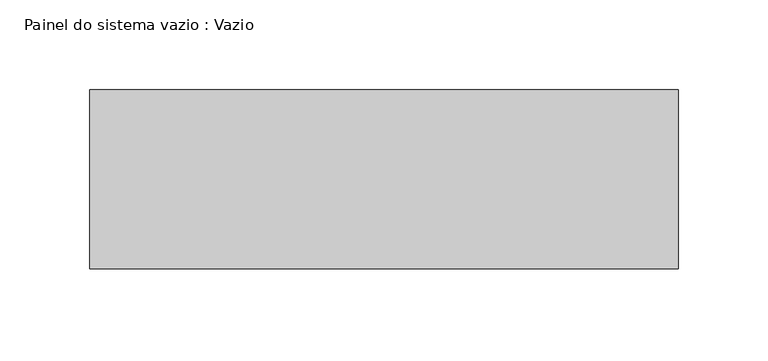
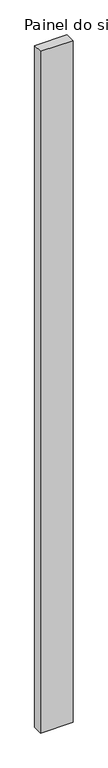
"""IFC4 building model written with IfcOpenShell, lengths in millimetres: plate geometry, Painel do sistema vazio : Vazio."""

import ifcopenshell
import ifcopenshell.guid

model = None  # the IFC model being written
_history = None  # IfcOwnerHistory: only IFC2X3 demands one
_inside = {}  # id of a spatial element -> (the spatial element, [elements in it])
_under = {}  # id of a project, library or spatial element -> (it, [spatial elements below it])
_declared = {}  # id of a project -> (the project, [libraries it declares])
_typed = {}  # id of a type object -> (the type object, [elements of that type])
_made_of = {}  # id of a material, layer set ... -> (it, [elements and type objects made of it])


def new_model(schema):
    """Start an empty IFC model of exactly this schema.

    Asked for "IFC4X3", IfcOpenShell would pick the latest addendum, in which some entities
    have other attributes; the version numbers below select the first issue.
    IFC2X3 requires an IfcOwnerHistory on every rooted entity: one is made here for all.
    """
    global model, _history
    if schema == "IFC4X3":
        model = ifcopenshell.file(schema_version=(4, 3, 0, 0))
    else:
        model = ifcopenshell.file(schema=schema)
    _inside.clear()
    _under.clear()
    _declared.clear()
    _typed.clear()
    _made_of.clear()
    _history = None
    if model.schema == "IFC2X3":
        org = make("IfcOrganization", Name="unknown")
        user = make(
            "IfcPersonAndOrganization",
            ThePerson=make("IfcPerson", FamilyName="unknown"),
            TheOrganization=org,
        )
        app = make(
            "IfcApplication",
            ApplicationDeveloper=org,
            Version="unknown",
            ApplicationFullName="unknown",
            ApplicationIdentifier="unknown",
        )
        _history = make(
            "IfcOwnerHistory",
            OwningUser=user,
            OwningApplication=app,
            ChangeAction="ADDED",
            CreationDate=0,
        )
    return model


def make(cls, **values):
    """One entity of the class cls with the attributes given. An attribute that is None is left unset."""
    return model.create_entity(
        cls, **{name: value for name, value in values.items() if value is not None}
    )


def rooted(cls, **values):
    """An entity with a GlobalId (a new one), such as an element, a storey or a relation."""
    return make(cls, GlobalId=ifcopenshell.guid.new(), OwnerHistory=_history, **values)


def si_unit(unit_type, name, prefix=None):
    """IfcSIUnit, for example si_unit("LENGTHUNIT", "METRE", prefix="MILLI")."""
    return make("IfcSIUnit", UnitType=unit_type, Prefix=prefix, Name=name)


def assignment(units):
    """IfcUnitAssignment: the units of a project."""
    return None if units is None else make("IfcUnitAssignment", Units=units)


def point(xyz):
    """IfcCartesianPoint."""
    return None if xyz is None else make("IfcCartesianPoint", Coordinates=xyz)


def direction(xyz):
    """IfcDirection."""
    return None if xyz is None else make("IfcDirection", DirectionRatios=xyz)


def frame(location, z_axis=None, x_axis=None):
    """IfcAxis2Placement3D, a coordinate frame: its origin and axes. An axis left out is left unset."""
    return make(
        "IfcAxis2Placement3D",
        Location=point(location),
        Axis=direction(z_axis),
        RefDirection=direction(x_axis),
    )


def origin():
    """The frame at (0, 0, 0) with its axes left unset."""
    return frame((0.0, 0.0, 0.0))


def origin_with_axes():
    """The frame at (0, 0, 0) with the z axis (0, 0, 1) and the x axis (1, 0, 0) written out."""
    return frame((0.0, 0.0, 0.0), z_axis=(0.0, 0.0, 1.0), x_axis=(1.0, 0.0, 0.0))


def place(relative_to, where):
    """IfcLocalPlacement: puts the frame where relative to a parent placement (None: the world)."""
    return make(
        "IfcLocalPlacement", PlacementRelTo=relative_to, RelativePlacement=where
    )


def context(
    kind, dimensions, precision=None, world=None, true_north=None, identifier=None
):
    """IfcGeometricRepresentationContext, for example the 3D "Model" context."""
    return make(
        "IfcGeometricRepresentationContext",
        ContextIdentifier=identifier,
        ContextType=kind,
        CoordinateSpaceDimension=dimensions,
        Precision=precision,
        WorldCoordinateSystem=world,
        TrueNorth=true_north,
    )


def project(units=None, contexts=None):
    """IfcProject with its units and contexts."""
    return rooted(
        "IfcProject",
        Name="project",
        RepresentationContexts=contexts,
        UnitsInContext=assignment(units),
    )


def spatial(cls, under=None, at=None, **own):
    """A site, building, storey or space (cls), placed at a placement, below another one or the project."""
    s = rooted(cls, ObjectPlacement=at, **own)
    if under is not None:
        _under.setdefault(under.id(), (under, []))[1].append(s)
    return s


def polyline(points):
    """IfcPolyline through the points."""
    return make("IfcPolyline", Points=[point(p) for p in points])


def outline(outer, holes=None, kind="AREA"):
    """IfcArbitraryClosedProfileDef: a profile drawn as a closed curve; with holes, ...WithVoids."""
    if holes is None:
        return make("IfcArbitraryClosedProfileDef", ProfileType=kind, OuterCurve=outer)
    return make(
        "IfcArbitraryProfileDefWithVoids",
        ProfileType=kind,
        OuterCurve=outer,
        InnerCurves=holes,
    )


def extrude(swept, where, along, depth):
    """IfcExtrudedAreaSolid: the profile swept, set in the frame where, extruded along a direction by depth."""
    return make(
        "IfcExtrudedAreaSolid",
        SweptArea=swept,
        Position=where,
        ExtrudedDirection=direction(along),
        Depth=depth,
    )


def shape(context_of_items, identifier, shape_type, items):
    """IfcShapeRepresentation: the items that make up one representation, for example the "Body"."""
    return make(
        "IfcShapeRepresentation",
        ContextOfItems=context_of_items,
        RepresentationIdentifier=identifier,
        RepresentationType=shape_type,
        Items=items,
    )


def source(mapping_origin, context_of_items, identifier, shape_type, items):
    """IfcRepresentationMap: a shape defined once, which mapped items show again and again."""
    return make(
        "IfcRepresentationMap",
        MappingOrigin=mapping_origin,
        MappedRepresentation=shape(context_of_items, identifier, shape_type, items),
    )


def transform(
    local_origin,
    x_axis=None,
    y_axis=None,
    z_axis=None,
    scale=None,
    scale2=None,
    scale3=None,
    uniform=True,
):
    """IfcCartesianTransformationOperator3D, or its non-uniform kind. x_axis, y_axis, z_axis: its Axis1, 2, 3."""
    if uniform:
        return make(
            "IfcCartesianTransformationOperator3D",
            Axis1=direction(x_axis),
            Axis2=direction(y_axis),
            LocalOrigin=point(local_origin),
            Scale=scale,
            Axis3=direction(z_axis),
        )
    return make(
        "IfcCartesianTransformationOperator3DnonUniform",
        Axis1=direction(x_axis),
        Axis2=direction(y_axis),
        LocalOrigin=point(local_origin),
        Scale=scale,
        Axis3=direction(z_axis),
        Scale2=scale2,
        Scale3=scale3,
    )


def mapped(mapping_source, mapping_target):
    """IfcMappedItem: shows the shape of a source again, moved by a transform."""
    return make(
        "IfcMappedItem", MappingSource=mapping_source, MappingTarget=mapping_target
    )


def made_of(thing, what):
    """Note that an element or type object is made of a material, layer set ...; save() writes the relation."""
    if what is not None:
        _made_of.setdefault(what.id(), (what, []))[1].append(thing)
    return thing


def element(
    cls,
    number,
    at=None,
    inside=None,
    cuts=None,
    type_object=None,
    material=None,
    context=None,
    identifier="Body",
    shape_type=None,
    held_by="IfcProductDefinitionShape",
    body=None,
    shapes=None,
    **own,
):
    """One element of the class cls, such as IfcWall. Its Tag is "e" and its number.

    at: its placement. inside: the storey or other place that contains it. cuts: it is an
    opening in that element (IfcRelVoidsElement). A single representation is given by context,
    identifier, shape_type and body (its items); several are given by shapes. held_by: the class
    of the entity that holds the representations. save() writes the other relations.
    """
    e = rooted(cls, Tag="e%d" % number, ObjectPlacement=at, **own)
    if body is not None:
        shapes = [shape(context, identifier, shape_type, body)]
    if shapes is not None:
        e.Representation = make(held_by, Representations=shapes)
    if inside is not None:
        _inside.setdefault(inside.id(), (inside, []))[1].append(e)
    if cuts is not None:
        rooted(
            "IfcRelVoidsElement", RelatingBuildingElement=cuts, RelatedOpeningElement=e
        )
    if type_object is not None:
        _typed.setdefault(type_object.id(), (type_object, []))[1].append(e)
    return made_of(e, material)


def aggregate(whole, parts):
    """IfcRelAggregates: a whole, such as a stair, and the parts it consists of."""
    return rooted("IfcRelAggregates", RelatingObject=whole, RelatedObjects=parts)


def save(model, path):
    """Write the relations noted so far, then the file.

    IfcRelAggregates (storeys below a building ...), IfcRelContainedInSpatialStructure (elements
    in a storey), IfcRelDefinesByType, IfcRelAssociatesMaterial and IfcRelDeclares: one each for
    every whole, place, type object, material and project.
    """
    for whole, parts in _under.values():
        aggregate(whole, parts)
    for where, things in _inside.values():
        rooted(
            "IfcRelContainedInSpatialStructure",
            RelatedElements=things,
            RelatingStructure=where,
        )
    for kind, things in _typed.values():
        rooted("IfcRelDefinesByType", RelatedObjects=things, RelatingType=kind)
    for what, things in _made_of.values():
        rooted("IfcRelAssociatesMaterial", RelatedObjects=things, RelatingMaterial=what)
    for by, libraries in _declared.values():
        rooted("IfcRelDeclares", RelatingContext=by, RelatedDefinitions=libraries)
    model.write(path)


def painel_do_sistema_vazio_vazio_cc1d985d(model_context):
    return source(origin(), model_context, "Body", "SweptSolid", [
        extrude(outline(polyline([(164.375, -50.0), (-164.375, -50.0), (-164.375, 50.0), (164.375, 50.0), (164.375, -50.0)])), origin_with_axes(), (0.0, 0.0, 1.0), 7288.0957915),
    ])


if __name__ == "__main__":
    model = new_model("IFC4")
    model_context = context("Model", 3, world=origin())
    ifc_project = project(units=[si_unit("LENGTHUNIT", "METRE", prefix="MILLI")], contexts=[model_context])
    site = spatial("IfcSite", under=ifc_project)
    building = spatial("IfcBuilding", under=site)
    placement = place(None, origin())
    painel_do_sistema_vazio_vazio_shape = painel_do_sistema_vazio_vazio_cc1d985d(model_context)
    element("IfcPlate", 1, ObjectType="Painel do sistema vazio : Vazio", at=placement, inside=building, context=model_context, shape_type="MappedRepresentation", body=[
        mapped(painel_do_sistema_vazio_vazio_shape, transform((0.0, 0.0, 0.0), x_axis=(1.0, 0.0, 0.0), y_axis=(0.0, 1.0, 0.0), z_axis=(0.0, 0.0, 1.0))),
    ])
    save(model, "model.ifc")
